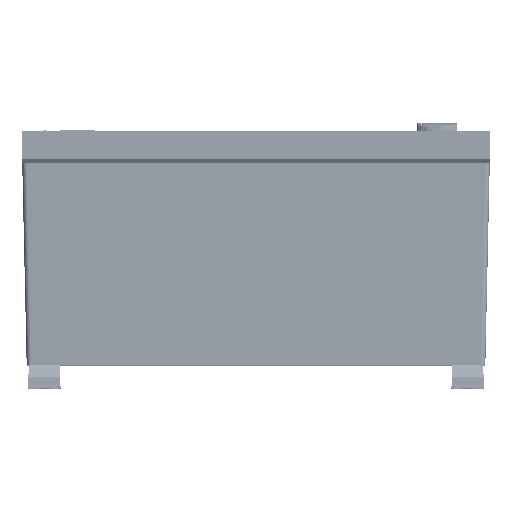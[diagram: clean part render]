
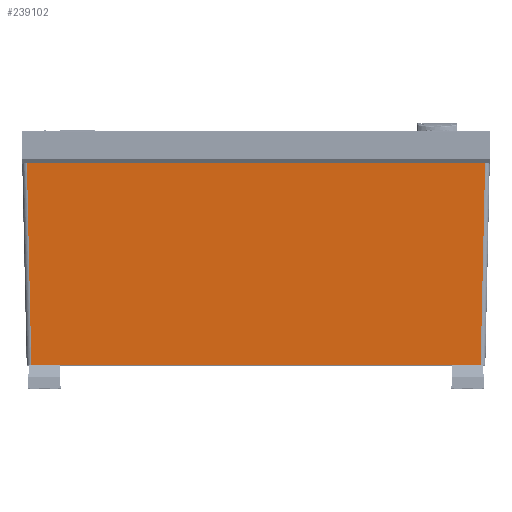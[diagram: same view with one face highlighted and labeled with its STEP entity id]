
A CAD part, top view. The second image highlights one B-rep face of the part: STEP entity #239102.
In plain terms, the highlighted planar face has unit normal (0, -0.022, 1).
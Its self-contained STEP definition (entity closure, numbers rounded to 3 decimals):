
#12794 = VECTOR ( 'NONE', #335973, 1000. ) ;
#17822 = CARTESIAN_POINT ( 'NONE',  ( 200., 173., 187.8 ) ) ;
#22989 = VECTOR ( 'NONE', #61304, 1000. ) ;
#54618 = CARTESIAN_POINT ( 'NONE',  ( 195.814, 173., 187.8 ) ) ;
#61304 = DIRECTION ( 'NONE',  ( 0.022, 1., 0.022 ) ) ;
#66493 = LINE ( 'NONE', #302832, #22989 ) ;
#72714 = VERTEX_POINT ( 'NONE', #228928 ) ;
#74729 = DIRECTION ( 'NONE',  ( 0.022, -1., -0.022 ) ) ;
#101737 = ORIENTED_EDGE ( 'NONE', *, *, #262133, .T. ) ;
#106947 = VERTEX_POINT ( 'NONE', #54618 ) ;
#116087 = EDGE_CURVE ( 'NONE', #72714, #295801, #261812, .T. ) ;
#117090 = FACE_OUTER_BOUND ( 'NONE', #253134, .T. ) ;
#119525 = CARTESIAN_POINT ( 'NONE',  ( -192.001, 0., 184. ) ) ;
#124173 = CARTESIAN_POINT ( 'NONE',  ( -195.805, 172.625, 187.792 ) ) ;
#137664 = EDGE_CURVE ( 'NONE', #72714, #106947, #66493, .T. ) ;
#141013 = ORIENTED_EDGE ( 'NONE', *, *, #116087, .F. ) ;
#143514 = ORIENTED_EDGE ( 'NONE', *, *, #137664, .T. ) ;
#149382 = VECTOR ( 'NONE', #74729, 1000. ) ;
#154271 = CARTESIAN_POINT ( 'NONE',  ( 200., 0., 184. ) ) ;
#156152 = DIRECTION ( 'NONE',  ( -1., 0., 0. ) ) ;
#167222 = AXIS2_PLACEMENT_3D ( 'NONE', #17822, #232853, #168251 ) ;
#168251 = DIRECTION ( 'NONE',  ( -1., 0., 0. ) ) ;
#228928 = CARTESIAN_POINT ( 'NONE',  ( 192.001, 0., 184. ) ) ;
#230906 = VERTEX_POINT ( 'NONE', #256822 ) ;
#232853 = DIRECTION ( 'NONE',  ( 0., 0.022, -1. ) ) ;
#239102 = ADVANCED_FACE ( 'NONE', ( #117090 ), #330442, .F. ) ;
#240936 = ORIENTED_EDGE ( 'NONE', *, *, #297674, .T. ) ;
#253134 = EDGE_LOOP ( 'NONE', ( #141013, #143514, #101737, #240936 ) ) ;
#256822 = CARTESIAN_POINT ( 'NONE',  ( -195.814, 173., 187.8 ) ) ;
#261812 = LINE ( 'NONE', #154271, #12794 ) ;
#262133 = EDGE_CURVE ( 'NONE', #106947, #230906, #290159, .T. ) ;
#290159 = LINE ( 'NONE', #337865, #292942 ) ;
#292942 = VECTOR ( 'NONE', #156152, 1000. ) ;
#295801 = VERTEX_POINT ( 'NONE', #119525 ) ;
#297674 = EDGE_CURVE ( 'NONE', #230906, #295801, #312825, .T. ) ;
#302832 = CARTESIAN_POINT ( 'NONE',  ( 192.087, 3.912, 184.086 ) ) ;
#312825 = LINE ( 'NONE', #124173, #149382 ) ;
#330442 = PLANE ( 'NONE',  #167222 ) ;
#335973 = DIRECTION ( 'NONE',  ( -1., 0., 0. ) ) ;
#337865 = CARTESIAN_POINT ( 'NONE',  ( 200., 173., 187.8 ) ) ;
